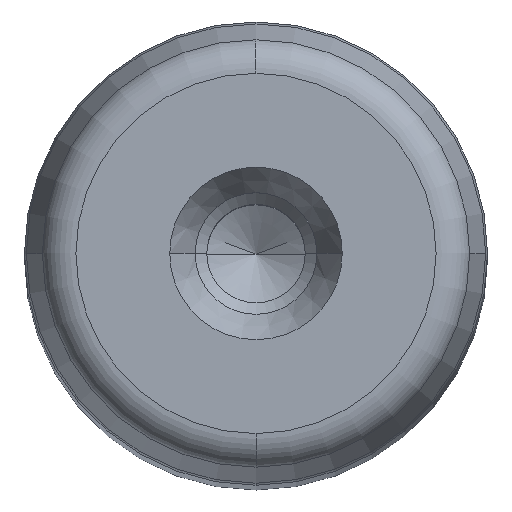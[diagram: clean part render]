
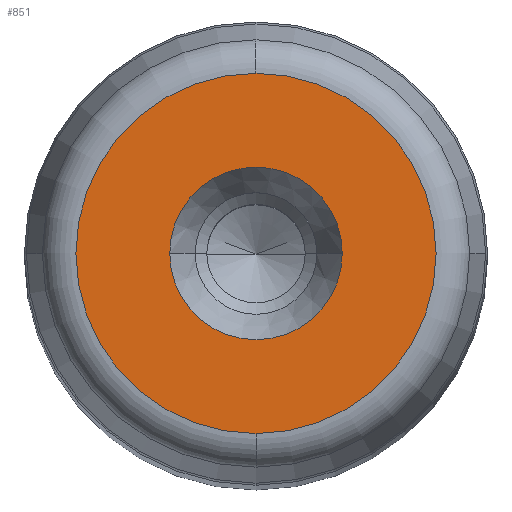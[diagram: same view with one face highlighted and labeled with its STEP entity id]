
A CAD part, top view. The second image highlights one B-rep face of the part: STEP entity #851.
In plain terms, the highlighted planar face has unit normal (0, 0, 1) as drawn and (0, 1, 0) by its records, which use the part's own axes.
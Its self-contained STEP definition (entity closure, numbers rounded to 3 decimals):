
#281=CARTESIAN_POINT('',(7.45,250.0,0.0));
#282=VERTEX_POINT('',#281);
#289=CARTESIAN_POINT('',(-7.45,250.0,0.));
#290=VERTEX_POINT('',#289);
#291=CARTESIAN_POINT('',(0.0,250.0,0.0));
#292=DIRECTION('',(0.0,1.0,0.0));
#293=DIRECTION('',(1.0,0.0,0.0));
#294=AXIS2_PLACEMENT_3D('',#291,#292,#293);
#295=CIRCLE('',#294,7.45);
#296=EDGE_CURVE('',#282,#290,#295,.T.);
#313=CARTESIAN_POINT('',(0.0,250.0,15.554));
#314=VERTEX_POINT('',#313);
#324=CARTESIAN_POINT('',(0.,250.0,-15.554));
#325=VERTEX_POINT('',#324);
#326=CARTESIAN_POINT('',(0.0,250.0,0.0));
#327=DIRECTION('',(0.0,1.0,0.0));
#328=DIRECTION('',(1.0,0.0,0.0));
#329=AXIS2_PLACEMENT_3D('',#326,#327,#328);
#330=CIRCLE('',#329,15.554);
#331=EDGE_CURVE('',#325,#314,#330,.T.);
#812=CARTESIAN_POINT('',(15.554,250.0,0.0));
#813=VERTEX_POINT('',#812);
#814=CARTESIAN_POINT('',(0.0,250.0,0.0));
#815=DIRECTION('',(0.0,1.0,0.0));
#816=DIRECTION('',(1.0,0.0,0.0));
#817=AXIS2_PLACEMENT_3D('',#814,#815,#816);
#818=CIRCLE('',#817,15.554);
#819=EDGE_CURVE('',#813,#325,#818,.T.);
#821=CARTESIAN_POINT('',(0.0,250.0,0.0));
#822=DIRECTION('',(0.0,1.0,0.0));
#823=DIRECTION('',(1.0,0.0,0.0));
#824=AXIS2_PLACEMENT_3D('',#821,#822,#823);
#825=CIRCLE('',#824,15.554);
#826=EDGE_CURVE('',#314,#813,#825,.T.);
#831=CARTESIAN_POINT('',(-17.11,250.0,-17.11));
#832=DIRECTION('',(0.0,1.0,0.0));
#833=DIRECTION('',(0.0,0.0,1.0));
#834=AXIS2_PLACEMENT_3D('',#831,#832,#833);
#835=PLANE('',#834);
#836=ORIENTED_EDGE('',*,*,#819,.T.);
#837=ORIENTED_EDGE('',*,*,#331,.T.);
#838=ORIENTED_EDGE('',*,*,#826,.T.);
#839=EDGE_LOOP('',(#836,#837,#838));
#840=FACE_OUTER_BOUND('',#839,.T.);
#841=ORIENTED_EDGE('',*,*,#296,.F.);
#842=CARTESIAN_POINT('',(0.0,250.0,0.0));
#843=DIRECTION('',(0.0,1.0,0.0));
#844=DIRECTION('',(1.0,0.0,0.0));
#845=AXIS2_PLACEMENT_3D('',#842,#843,#844);
#846=CIRCLE('',#845,7.45);
#847=EDGE_CURVE('',#290,#282,#846,.T.);
#848=ORIENTED_EDGE('',*,*,#847,.F.);
#849=EDGE_LOOP('',(#841,#848));
#850=FACE_BOUND('',#849,.T.);
#851=ADVANCED_FACE('',(#840,#850),#835,.T.);
